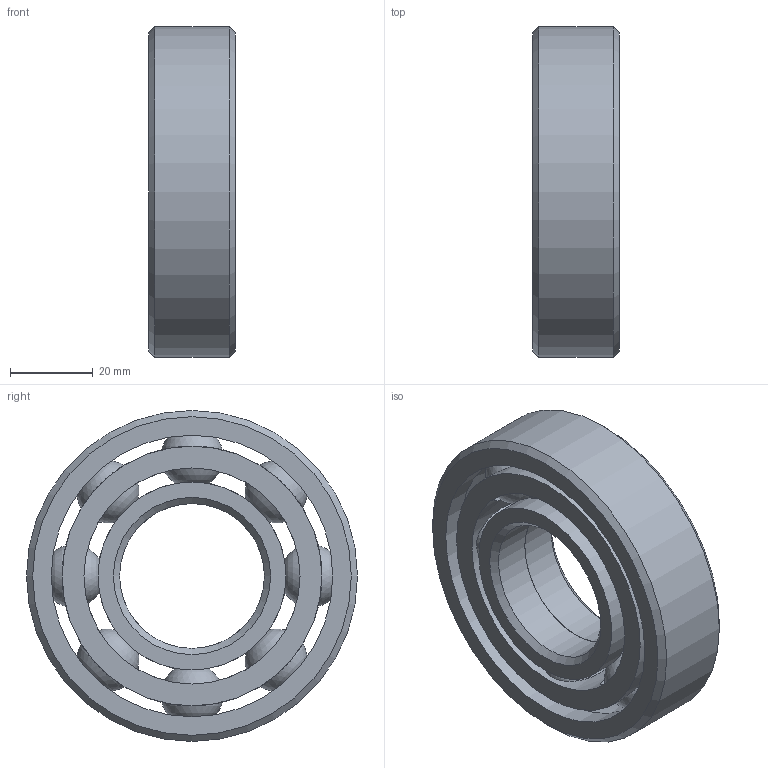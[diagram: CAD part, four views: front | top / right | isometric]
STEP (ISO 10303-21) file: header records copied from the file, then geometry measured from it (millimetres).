
FILE_DESCRIPTION(/* description */ (''),/* implementation_level */ '2;1');
FILE_NAME(/* name */ 'D:\BASISTA_PLOCHA\PARAMETRICKE PRE STP\STEP-PRE BELESTAKA\Jednoradové guľkové ložiská so štvorbodovým stykom-je\QJ307MA.stp',/* time_stamp */ '2020-04-16T08:07:44+02:00',/* author */ ('OUBASISTA'),/* organization */ (''),/* preprocessor_version */ 'ST-DEVELOPER v17.2',/* originating_system */ 'Autodesk Inventor 2019',/* authorisation */ '');
FILE_SCHEMA (('AUTOMOTIVE_DESIGN { 1 0 10303 214 3 1 1 }'));
Length unit declared in the file: millimetre
Products named in the file (5): QJ307MA; QJ307MA-02; QJ307MA-ball; QJ307MA-cage; QJ307MA-01
Assembly tree (12 placements, depth 2):
  QJ307MA
    QJ307MA-02  x2
    QJ307MA-ball  x8
    QJ307MA-cage
    QJ307MA-01
Bounding box: 21 x 80 x 80 mm (x, y, z)
Volume: 61206.7 mm3; surface area: 33257.5 mm2
Topology: 12 solids, 12 shells, 40 faces, 136 edges, 102 vertices
Faces by surface type: cylinder 17, plane 8, sphere 8, cone 4, torus 3
Full cylindrical faces by diameter (mm): 15.835 x8, 35 x2, 45.435 x2, 52.222 x1, 62.778 x1, 68.057 x2, 80 x1
Entity records: 1863 total; most frequent: CARTESIAN_POINT 761, ORIENTED_EDGE 192, DIRECTION 192, EDGE_CURVE 96, AXIS2_PLACEMENT_3D 86, VERTEX_POINT 75, EDGE_LOOP 47, CIRCLE 42
